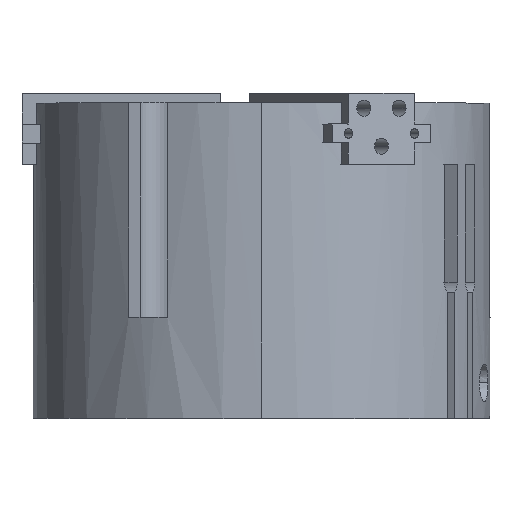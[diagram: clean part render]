
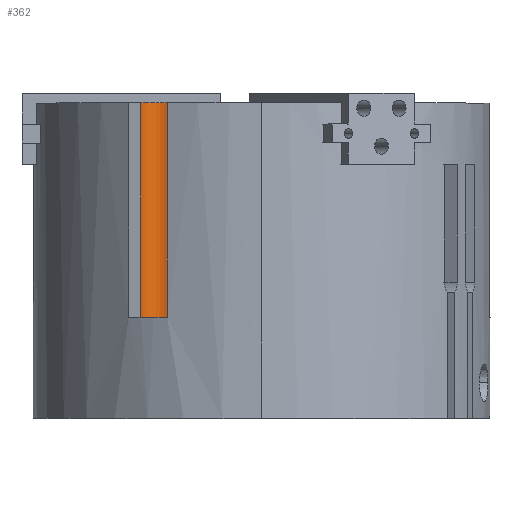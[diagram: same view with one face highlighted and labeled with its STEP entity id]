
A CAD part, top view. The second image highlights one B-rep face of the part: STEP entity #362.
In plain terms, the highlighted cylindrical face has radius 5.563 mm (diameter 11.125 mm), a partial arc.
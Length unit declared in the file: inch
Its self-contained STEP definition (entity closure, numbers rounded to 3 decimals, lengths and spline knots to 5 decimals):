
#66 = EDGE_CURVE ( 'NONE', #2601, #1249, #84, .T. ) ;
#84 = LINE ( 'NONE', #3477, #4779 ) ;
#130 = DIRECTION ( 'NONE',  ( 0., 1., 0. ) ) ;
#148 = CARTESIAN_POINT ( 'NONE',  ( -0.81034, -0.5575, 1.84155 ) ) ;
#151 = CARTESIAN_POINT ( 'NONE',  ( -1., -0.5575, 1.73205 ) ) ;
#157 = ORIENTED_EDGE ( 'NONE', *, *, #2310, .T. ) ;
#259 = CARTESIAN_POINT ( 'NONE',  ( -1., -0.5575, 1.73205 ) ) ;
#362 = ADVANCED_FACE ( 'NONE', ( #4591 ), #2481, .F. ) ;
#595 = CARTESIAN_POINT ( 'NONE',  ( -0.81034, 1.5525, 1.84155 ) ) ;
#777 = EDGE_CURVE ( 'NONE', #4028, #2601, #2998, .T. ) ;
#1015 = CARTESIAN_POINT ( 'NONE',  ( -0.81034, -0.5575, 1.84155 ) ) ;
#1032 = EDGE_LOOP ( 'NONE', ( #3079, #4799, #3146, #157 ) ) ;
#1117 = VERTEX_POINT ( 'NONE', #595 ) ;
#1249 = VERTEX_POINT ( 'NONE', #3934 ) ;
#1275 = CARTESIAN_POINT ( 'NONE',  ( -1., 1.5525, 1.73205 ) ) ;
#1340 = AXIS2_PLACEMENT_3D ( 'NONE', #151, #130, #2173 ) ;
#1690 = DIRECTION ( 'NONE',  ( -0.866, 0., -0.5 ) ) ;
#2067 = EDGE_CURVE ( 'NONE', #1117, #1249, #3374, .T. ) ;
#2173 = DIRECTION ( 'NONE',  ( -0.866, 0., -0.5 ) ) ;
#2218 = VECTOR ( 'NONE', #2971, 39.37008 ) ;
#2310 = EDGE_CURVE ( 'NONE', #4028, #1117, #4394, .T. ) ;
#2481 = CYLINDRICAL_SURFACE ( 'NONE', #5147, 0.219 ) ;
#2601 = VERTEX_POINT ( 'NONE', #3603 ) ;
#2971 = DIRECTION ( 'NONE',  ( 0., 1., 0. ) ) ;
#2998 = CIRCLE ( 'NONE', #1340, 0.219 ) ;
#3079 = ORIENTED_EDGE ( 'NONE', *, *, #2067, .T. ) ;
#3146 = ORIENTED_EDGE ( 'NONE', *, *, #777, .F. ) ;
#3374 = CIRCLE ( 'NONE', #4030, 0.219 ) ;
#3477 = CARTESIAN_POINT ( 'NONE',  ( -1.18966, -0.5575, 1.62255 ) ) ;
#3603 = CARTESIAN_POINT ( 'NONE',  ( -1.18966, -0.5575, 1.62255 ) ) ;
#3660 = DIRECTION ( 'NONE',  ( 0., 1., 0. ) ) ;
#3934 = CARTESIAN_POINT ( 'NONE',  ( -1.18966, 1.5525, 1.62255 ) ) ;
#3978 = DIRECTION ( 'NONE',  ( 0., 1., 0. ) ) ;
#4028 = VERTEX_POINT ( 'NONE', #1015 ) ;
#4030 = AXIS2_PLACEMENT_3D ( 'NONE', #1275, #4149, #1690 ) ;
#4075 = DIRECTION ( 'NONE',  ( 0., 0., 1. ) ) ;
#4149 = DIRECTION ( 'NONE',  ( 0., 1., 0. ) ) ;
#4394 = LINE ( 'NONE', #148, #2218 ) ;
#4591 = FACE_OUTER_BOUND ( 'NONE', #1032, .T. ) ;
#4779 = VECTOR ( 'NONE', #3978, 39.37008 ) ;
#4799 = ORIENTED_EDGE ( 'NONE', *, *, #66, .F. ) ;
#5147 = AXIS2_PLACEMENT_3D ( 'NONE', #259, #3660, #4075 ) ;
